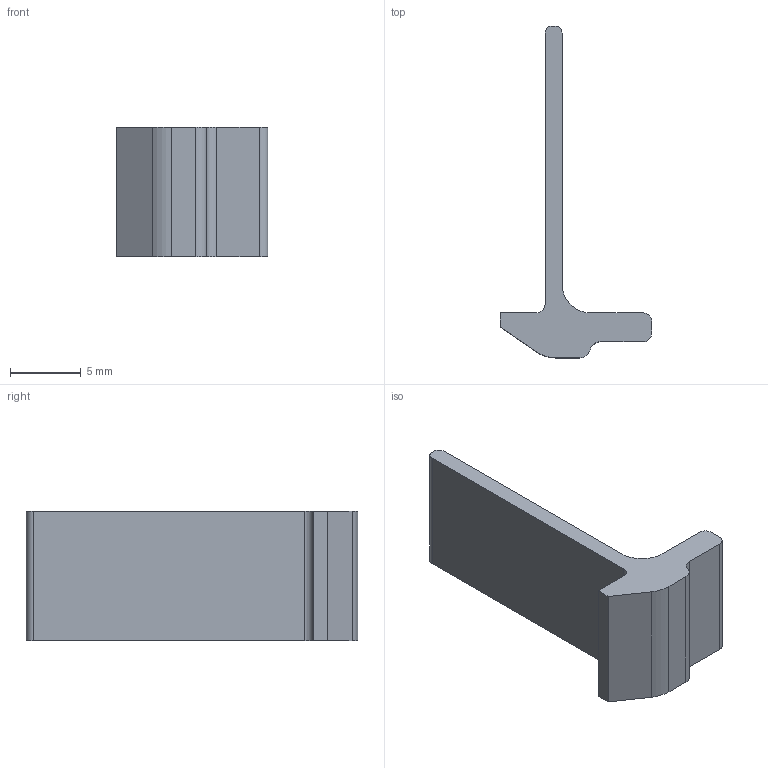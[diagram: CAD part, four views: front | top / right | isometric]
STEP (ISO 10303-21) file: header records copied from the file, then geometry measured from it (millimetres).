
FILE_DESCRIPTION (( 'STEP AP203' ), '1' );
FILE_NAME ('DEMON SHIELD COVER TABS r1.STEP', '2019-11-22T15:52:16', ( '' ), ( '' ), 'SwSTEP 2.0', 'SolidWorks 2017', '' );
FILE_SCHEMA (( 'CONFIG_CONTROL_DESIGN' ));
Length unit declared in the file: inch
Products named in the file (1): DEMON SHIELD COVER TABS r1
Bounding box: 10.72 x 23.5 x 9.14 mm (x, y, z)
Volume: 463.1 mm3; surface area: 688.3 mm2
Topology: 1 solids, 1 shells, 21 faces, 57 edges, 38 vertices
Faces by surface type: plane 12, cylinder 9
Entity records: 748 total; most frequent: DIRECTION 119, CARTESIAN_POINT 117, ORIENTED_EDGE 114, EDGE_CURVE 57, AXIS2_PLACEMENT_3D 40, VECTOR 39, LINE 39, VERTEX_POINT 38
